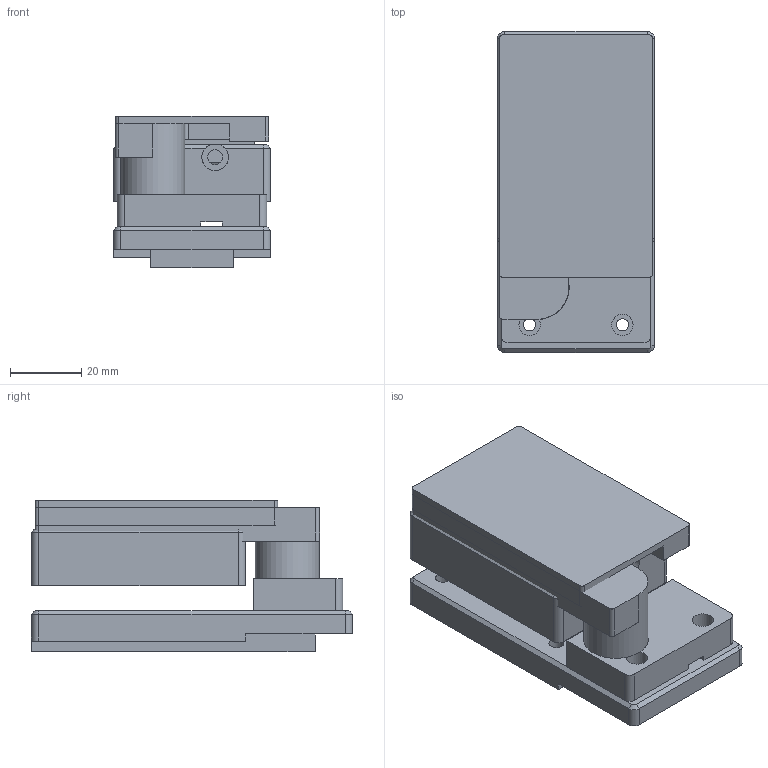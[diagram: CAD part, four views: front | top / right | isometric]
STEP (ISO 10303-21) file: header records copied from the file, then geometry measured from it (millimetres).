
FILE_DESCRIPTION(/* description */ (''),/* implementation_level */ '2;1');
FILE_NAME(/* name */ 'tool_sensor_v3.step',/* time_stamp */ '2026-08-04T07:29:49-07:00',/* author */ (''),/* organization */ (''),/* preprocessor_version */ 'ST-DEVELOPER v20.1',/* originating_system */ 'Autodesk Translation Framework v15.8.0.0',/* authorisation */ '');
FILE_SCHEMA (('AUTOMOTIVE_DESIGN { 1 0 10303 214 3 1 1 }'));
Length unit declared in the file: millimetre
Products named in the file (1): cnc_box_v2
Bounding box: 44 x 90 x 42.5 mm (x, y, z)
Volume: 121233.8 mm3; surface area: 53057.1 mm2
Topology: 8 solids, 8 shells, 345 faces, 885 edges, 584 vertices
Faces by surface type: plane 237, cylinder 98, cone 9, torus 1
Full cylindrical faces by diameter (mm): 3.2 x3, 3.4 x6, 4 x2, 4.2 x8, 5.5 x2, 6 x5, 7.2 x4, 8 x1, 8.17 x4, 8.2 x5, 10 x2, 18 x1
Entity records: 10624 total; most frequent: CARTESIAN_POINT 1881, DIRECTION 1807, ORIENTED_EDGE 1770, EDGE_CURVE 885, LINE 639, VECTOR 639, VERTEX_POINT 584, AXIS2_PLACEMENT_3D 584
